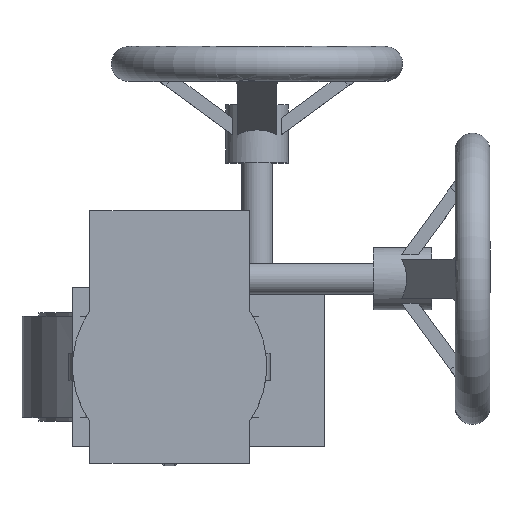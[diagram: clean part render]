
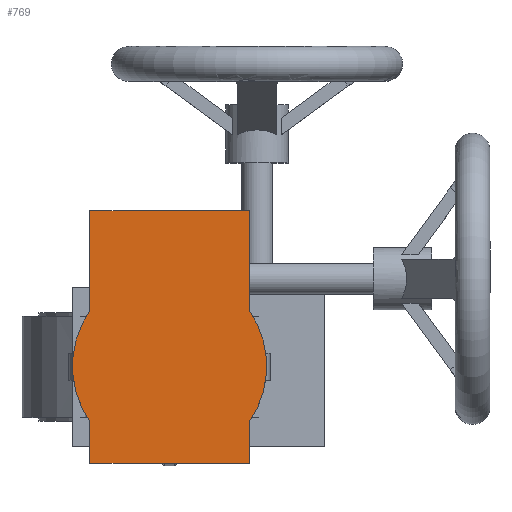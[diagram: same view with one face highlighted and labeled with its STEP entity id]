
A CAD part, top view. The second image highlights one B-rep face of the part: STEP entity #769.
In plain terms, the highlighted planar face has unit normal (0, 0, 1) as drawn and (0, 0, -1) by its records, which use the part's own axes.
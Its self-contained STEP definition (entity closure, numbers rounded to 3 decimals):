
#769 = ADVANCED_FACE( '', ( #1592 ), #1593, .F. );
#1592 = FACE_OUTER_BOUND( '', #3770, .T. );
#1593 = PLANE( '', #3771 );
#3770 = EDGE_LOOP( '', ( #6271, #6272, #6273, #6274, #6275, #6276, #6277, #6278 ) );
#3771 = AXIS2_PLACEMENT_3D( '', #6279, #6280, #6281 );
#6271 = ORIENTED_EDGE( '', *, *, #6946, .F. );
#6272 = ORIENTED_EDGE( '', *, *, #6650, .F. );
#6273 = ORIENTED_EDGE( '', *, *, #7011, .F. );
#6274 = ORIENTED_EDGE( '', *, *, #7015, .F. );
#6275 = ORIENTED_EDGE( '', *, *, #6978, .F. );
#6276 = ORIENTED_EDGE( '', *, *, #7117, .F. );
#6277 = ORIENTED_EDGE( '', *, *, #6313, .F. );
#6278 = ORIENTED_EDGE( '', *, *, #7023, .F. );
#6279 = CARTESIAN_POINT( '', ( 0., 0., 0. ) );
#6280 = DIRECTION( '', ( 0., 0., 1. ) );
#6281 = DIRECTION( '', ( 1., 0., 0. ) );
#6313 = EDGE_CURVE( '', #7185, #7187, #7188, .T. );
#6650 = EDGE_CURVE( '', #7745, #7747, #7748, .T. );
#6946 = EDGE_CURVE( '', #7747, #8174, #8175, .T. );
#6978 = EDGE_CURVE( '', #8214, #8216, #8217, .T. );
#7011 = EDGE_CURVE( '', #8254, #7745, #8256, .T. );
#7015 = EDGE_CURVE( '', #8216, #8254, #8260, .T. );
#7023 = EDGE_CURVE( '', #8174, #7185, #8270, .T. );
#7117 = EDGE_CURVE( '', #7187, #8214, #8377, .T. );
#7185 = VERTEX_POINT( '', #8556 );
#7187 = VERTEX_POINT( '', #8559 );
#7188 = LINE( '', #8560, #8561 );
#7745 = VERTEX_POINT( '', #11009 );
#7747 = VERTEX_POINT( '', #11012 );
#7748 = LINE( '', #11013, #11014 );
#8174 = VERTEX_POINT( '', #13701 );
#8175 = CIRCLE( '', #13702, 50. );
#8214 = VERTEX_POINT( '', #14174 );
#8216 = VERTEX_POINT( '', #14177 );
#8217 = CIRCLE( '', #14178, 50. );
#8254 = VERTEX_POINT( '', #14398 );
#8256 = LINE( '', #14401, #14402 );
#8260 = LINE( '', #14407, #14408 );
#8270 = LINE( '', #14467, #14468 );
#8377 = LINE( '', #14954, #14955 );
#8556 = CARTESIAN_POINT( '', ( 80., -41., 0. ) );
#8559 = CARTESIAN_POINT( '', ( 80., 41., 0. ) );
#8560 = CARTESIAN_POINT( '', ( 80., -41., 0. ) );
#8561 = VECTOR( '', #14996, 1000. );
#11009 = CARTESIAN_POINT( '', ( -50., -41., 0. ) );
#11012 = CARTESIAN_POINT( '', ( -28.618, -41., 0. ) );
#11013 = CARTESIAN_POINT( '', ( -50., -41., 0. ) );
#11014 = VECTOR( '', #15321, 1000. );
#13701 = CARTESIAN_POINT( '', ( 28.618, -41., 0. ) );
#13702 = AXIS2_PLACEMENT_3D( '', #15527, #15528, #15529 );
#14174 = CARTESIAN_POINT( '', ( 28.618, 41., 0. ) );
#14177 = CARTESIAN_POINT( '', ( -28.618, 41., 0. ) );
#14178 = AXIS2_PLACEMENT_3D( '', #15544, #15545, #15546 );
#14398 = CARTESIAN_POINT( '', ( -50., 41., 0. ) );
#14401 = CARTESIAN_POINT( '', ( -50., 41., 0. ) );
#14402 = VECTOR( '', #15563, 1000. );
#14407 = CARTESIAN_POINT( '', ( -28.618, 41., 0. ) );
#14408 = VECTOR( '', #15565, 1000. );
#14467 = CARTESIAN_POINT( '', ( 28.618, -41., 0. ) );
#14468 = VECTOR( '', #15572, 1000. );
#14954 = CARTESIAN_POINT( '', ( 80., 41., 0. ) );
#14955 = VECTOR( '', #15646, 1000. );
#14996 = DIRECTION( '', ( 0., 1., 0. ) );
#15321 = DIRECTION( '', ( 1., 0., 0. ) );
#15527 = CARTESIAN_POINT( '', ( 0., 0., 0. ) );
#15528 = DIRECTION( '', ( 0., 0., 1. ) );
#15529 = DIRECTION( '', ( 1., 0., 0. ) );
#15544 = CARTESIAN_POINT( '', ( 0., 0., 0. ) );
#15545 = DIRECTION( '', ( 0., 0., 1. ) );
#15546 = DIRECTION( '', ( 1., 0., 0. ) );
#15563 = DIRECTION( '', ( 0., -1., 0. ) );
#15565 = DIRECTION( '', ( -1., 0., 0. ) );
#15572 = DIRECTION( '', ( 1., 0., 0. ) );
#15646 = DIRECTION( '', ( -1., 0., 0. ) );
